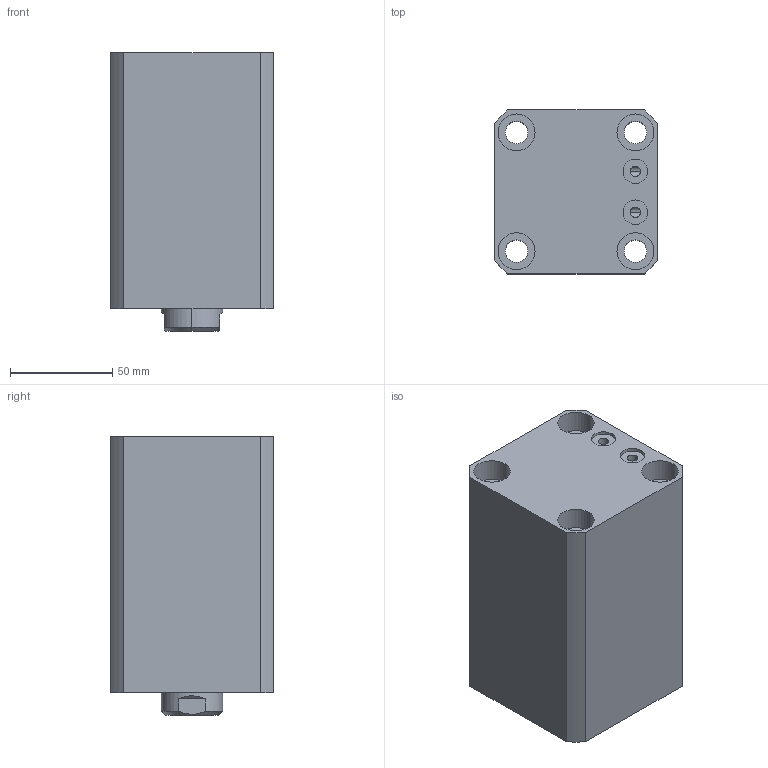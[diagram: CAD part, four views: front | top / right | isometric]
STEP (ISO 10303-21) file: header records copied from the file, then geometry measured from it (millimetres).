
FILE_DESCRIPTION (( 'STEP AP203' ), '1' );
FILE_NAME ('CHTB-SDMB50-65N.STEP', '2018-05-19T06:13:38', ( '' ), ( '' ), 'SwSTEP 2.0', 'SolidWorks 2015', '' );
FILE_SCHEMA (( 'CONFIG_CONTROL_DESIGN' ));
Length unit declared in the file: millimetre
Products named in the file (5): M6; CHTB-SDMB50-65N; 掛极SDMB50-65N; 活塞杆SDMB50-65N; CHTM-SDMA50QG
Assembly tree (5 placements, depth 2):
  CHTB-SDMB50-65N
    掛极SDMB50-65N
    活塞杆SDMB50-65N
    CHTM-SDMA50QG
    M6  x2
Bounding box: 80 x 80 x 136 mm (x, y, z)
Volume: 643917.6 mm3; surface area: 124261.5 mm2
Topology: 5 solids, 5 shells, 263 faces, 693 edges, 458 vertices
Faces by surface type: cylinder 135, plane 55, cone 31, bspline 26, torus 16
Entity records: 13963 total; most frequent: CARTESIAN_POINT 8102, ORIENTED_EDGE 1188, DIRECTION 1016, EDGE_CURVE 594, AXIS2_PLACEMENT_3D 416, VERTEX_POINT 397, EDGE_LOOP 269, ADVANCED_FACE 228
